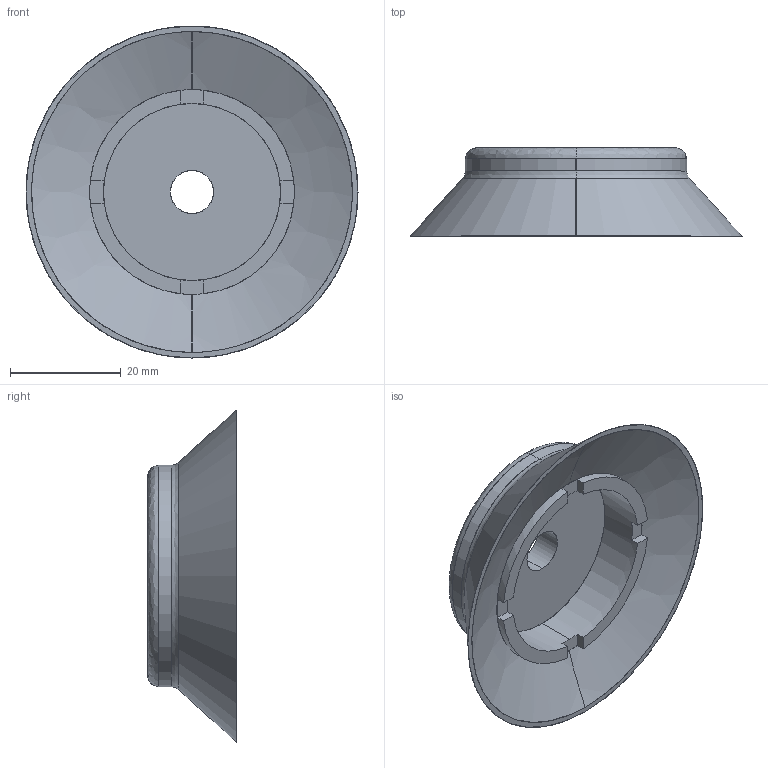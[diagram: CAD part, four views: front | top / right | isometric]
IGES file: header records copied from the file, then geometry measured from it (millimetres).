
Start section: SolidWorks IGES file using analytic representation for surfaces
Global section: file name: E:\eins\Web僒僀僩岞奐恾柺\iges\210311.IGS; native system: SolidWorks 2006 by SolidWorks Corporation; preprocessor: SolidWorks 2006 by SolidWorks Corporation; author: CAD54; date: 070919.110204; units: millimetre
Bounding box: 60 x 16 x 60 mm (x, y, z)
Surface area: 8107.3 mm2 (no closed solid volume)
Topology: 0 solids, 0 shells, 35 faces, 544 edges, 544 vertices
Faces by surface type: bspline 25, revolution 10
